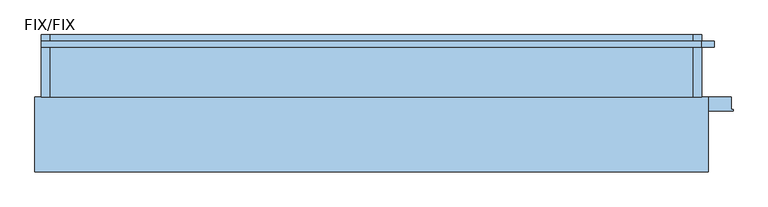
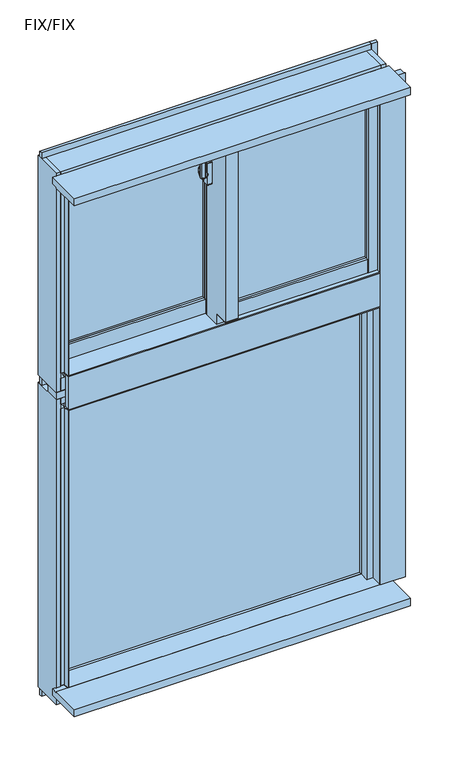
"""IFC4 building model written with IfcOpenShell, lengths in millimetres: window geometry, FNSⅡ100R_非防火_面付枠_段窓_分解無目 : FIX/FIX."""

from ifc_helpers import new_model, si_unit, point, frame, frame_2d, origin, place, context, project, spatial, polyline, circle_curve, trimmed, segment, composite_curve, outline, extrude, faceted_brep, source, transform, mapped, element, save
from ifc_brep_helpers import plane_surface, cylinder_surface, revolved_surface, advanced_brep


def fix_fix_c0cfdafb(model_context):
    return source(origin(), model_context, "Body", "SolidModel", [
        extrude(outline(composite_curve([segment(polyline([(-39.0, 34.6), (-39.0, 26.4)]), True, "CONTINUOUS"), segment(trimmed(circle_curve(frame_2d((-41.0, 26.4)), 2.0), [point((-39.0, 26.4))], [point((-41.3606557, 24.4327869))], False, "CARTESIAN"), True, "CONTINUOUS"), segment(polyline([(-41.3606557, 24.4327869), (-52.3606557, 26.4494536)]), True, "CONTINUOUS"), segment(trimmed(circle_curve(frame_2d((-52.0, 28.4166667)), 2.0), [point((-52.3606557, 26.4494536))], [point((-54.0, 28.4166667))], False, "CARTESIAN"), True, "CONTINUOUS"), segment(polyline([(-54.0, 28.4166667), (-54.0, 32.5833333)]), True, "CONTINUOUS"), segment(trimmed(circle_curve(frame_2d((-52.0, 32.5833333)), 2.0), [point((-54.0, 32.5833333))], [point((-52.3606557, 34.5505464))], False, "CARTESIAN"), True, "CONTINUOUS"), segment(polyline([(-52.3606557, 34.5505464), (-41.3606557, 36.5672131)]), True, "CONTINUOUS"), segment(trimmed(circle_curve(frame_2d((-41.0, 34.6)), 2.0), [point((-41.3606557, 36.5672131))], [point((-39.0, 34.6))], False, "CARTESIAN"), True, "CONTINUOUS")], self_intersect=False)), frame((0.0, 0.0, 2450.0), z_axis=(0.0, 0.0, 1.0), x_axis=(1.0, 0.0, 0.0)), (0.0, 0.0, 1.0), 100.0),
        advanced_brep(
        [(-37.5, 38.8234285, 2481.7333311), (-45.5, 38.8234285, 2481.7333311), (-45.5, 38.4351999, 2480.2844424), (-39.0, 38.4351999, 2480.2844424), (-39.0, 36.6234666, 2473.5229616), (-37.5, 36.6234666, 2473.5229616), (-39.0, 36.6466117, 2439.3190372), (-45.5, 36.6466117, 2439.3190372), (-45.5, 36.907084, 2437.8418256), (-37.5, 36.907084, 2437.8418256), (-37.5, 35.4310745, 2446.2126915), (-39.0, 35.4310745, 2446.2126915)],
        [
            (0, 1),
            (1, 2),
            (2, 3),
            (3, 4),
            (4, 5),
            (5, 0),
            (6, 7),
            (7, 8),
            (8, 9),
            (9, 10),
            (10, 11),
            (11, 6),
            (0, 9, circle_curve(frame((-37.5, 33.0, 2460.0), z_axis=(-1.0, 0.0, 0.0), x_axis=(0.0, 0.25881904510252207, 0.965925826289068)), 22.5)),
            (8, 1, circle_curve(frame((-45.5, 33.0, 2460.0), z_axis=(1.0, 0.0, 0.0), x_axis=(0.0, 0.25881904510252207, 0.965925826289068)), 22.5)),
            (7, 2, circle_curve(frame((-45.5, 33.0, 2460.0), z_axis=(1.0, 0.0, 0.0), x_axis=(0.0, 0.25881904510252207, 0.965925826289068)), 21.0)),
            (6, 3, circle_curve(frame((-39.0, 33.0, 2460.0), z_axis=(1.0, 0.0, 0.0), x_axis=(0.0, 0.25881904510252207, 0.965925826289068)), 21.0)),
            (11, 4, circle_curve(frame((-39.0, 33.0, 2460.0), z_axis=(-1.0, 0.0, 0.0), x_axis=(0.0, -1.0, 0.0)), 14.0)),
            (5, 10, circle_curve(frame((-37.5, 33.0, 2460.0), z_axis=(1.0, 0.0, 0.0), x_axis=(0.0, -1.0, 0.0)), 14.0)),
        ],
        [
            plane_surface(frame((-43.5470497, 33.0, 2460.0), z_axis=(0.0, -0.965925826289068, 0.25881904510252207), x_axis=(0.0, 0.25881904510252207, 0.965925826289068))),
            plane_surface(frame((-43.5470497, 33.0, 2460.0), z_axis=(0.0, -0.9848077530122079, -0.17364817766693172), x_axis=(0.0, 0.17364817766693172, -0.9848077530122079))),
            cylinder_surface(frame((-43.5470497, 33.0, 2460.0), z_axis=(-1.0, 0.0, 0.0), x_axis=(0.0, 0.25881904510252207, 0.965925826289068)), 22.5),
            plane_surface(frame((-45.5, 33.0, 2460.0), z_axis=(-1.0, 0.0, 0.0), x_axis=(0.0, 0.25881904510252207, 0.965925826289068))),
            revolved_surface(polyline([(-45.5, 38.43519994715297, 2480.2844423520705), (-39.0, 38.43519994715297, 2480.2844423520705)]), (-43.5470497, 33.0, 2460.0), (-1.0, 0.0, 0.0)),
            plane_surface(frame((-39.0, 33.0, 2460.0), z_axis=(-1.0, 0.0, 0.0), x_axis=(0.0, 0.25881904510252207, 0.965925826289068))),
            plane_surface(frame((-37.5, 33.0, 2460.0), z_axis=(1.0, 0.0, 0.0), x_axis=(0.0, 0.25881904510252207, 0.965925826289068))),
            cylinder_surface(frame((-37.5, 33.0, 2460.0), z_axis=(-1.0, 0.0, 0.0), x_axis=(0.0, -1.0, 0.0)), 14.0),
        ],
        [
            (0, [[1, 2, 3, 4, 5, 6]]),
            (1, [[7, 8, 9, 10, 11, 12]]),
            (2, [[-1, 13, -9, 14]]),
            (3, [[-2, -14, -8, 15]]),
            (4, [[-3, -15, -7, 16]]),
            (5, [[-16, -12, 17, -4]]),
            (6, [[-13, -6, 18, -10]]),
            (7, [[-17, -11, -18, -5]]),
        ],
    ),
        extrude(outline(composite_curve([segment(trimmed(circle_curve(frame_2d((33.0, 2460.0)), 11.5), [point((44.5, 2460.0))], [point((21.5, 2460.0))], False, "CARTESIAN"), True, "CONTINUOUS"), segment(trimmed(circle_curve(frame_2d((33.0, 2460.0)), 11.5), [point((21.5, 2460.0))], [point((44.5, 2460.0))], False, "CARTESIAN"), True, "CONTINUOUS")], self_intersect=False)), frame((-37.5, 0.0, 0.0), z_axis=(1.0, 0.0, 0.0), x_axis=(0.0, 1.0, 0.0)), (0.0, 0.0, 1.0), 2.5),
        extrude(outline(composite_curve([segment(polyline([(24.0, 2497.5), (42.0, 2497.5)]), True, "CONTINUOUS"), segment(trimmed(circle_curve(frame_2d((42.0, 2495.5)), 2.0), [point((42.0, 2497.5))], [point((44.0, 2495.5))], False, "CARTESIAN"), True, "CONTINUOUS"), segment(polyline([(44.0, 2495.5), (44.0, 2424.5)]), True, "CONTINUOUS"), segment(trimmed(circle_curve(frame_2d((42.0, 2424.5)), 2.0), [point((44.0, 2424.5))], [point((42.0, 2422.5))], False, "CARTESIAN"), True, "CONTINUOUS"), segment(polyline([(42.0, 2422.5), (24.0, 2422.5)]), True, "CONTINUOUS"), segment(trimmed(circle_curve(frame_2d((24.0, 2424.5)), 2.0), [point((24.0, 2422.5))], [point((22.0, 2424.5))], False, "CARTESIAN"), True, "CONTINUOUS"), segment(polyline([(22.0, 2424.5), (22.0, 2495.5)]), True, "CONTINUOUS"), segment(trimmed(circle_curve(frame_2d((24.0, 2495.5)), 2.0), [point((22.0, 2495.5))], [point((24.0, 2497.5))], False, "CARTESIAN"), True, "CONTINUOUS")], self_intersect=False)), frame((-35.0, 0.0, 0.0), z_axis=(1.0, 0.0, 0.0), x_axis=(0.0, 1.0, 0.0)), (0.0, 0.0, 1.0), 15.0),
        extrude(outline(polyline([(20.0, 24.0), (468.0, 24.0), (468.0, 18.0), (20.0, 18.0), (20.0, 24.0)])), frame((0.0, 0.0, 2008.0), z_axis=(0.0, 0.0, 1.0), x_axis=(1.0, 0.0, 0.0)), (0.0, 0.0, 1.0), 562.0),
        extrude(outline(polyline([(20.0, 42.0), (468.0, 42.0), (468.0, 36.0), (20.0, 36.0), (20.0, 42.0)])), frame((0.0, 0.0, 2008.0), z_axis=(0.0, 0.0, 1.0), x_axis=(1.0, 0.0, 0.0)), (0.0, 0.0, 1.0), 562.0),
        extrude(outline(polyline([(-468.0, 82.0), (-20.0, 82.0), (-20.0, 76.0), (-468.0, 76.0), (-468.0, 82.0)])), frame((0.0, 0.0, 2008.0), z_axis=(0.0, 0.0, 1.0), x_axis=(1.0, 0.0, 0.0)), (0.0, 0.0, 1.0), 562.0),
        extrude(outline(polyline([(-468.0, 100.0), (-20.0, 100.0), (-20.0, 94.0), (-468.0, 94.0), (-468.0, 100.0)])), frame((0.0, 0.0, 2008.0), z_axis=(0.0, 0.0, 1.0), x_axis=(1.0, 0.0, 0.0)), (0.0, 0.0, 1.0), 562.0),
        faceted_brep([(-500.0, 108.0, 2610.0), (-468.0, 108.0, 2610.0), (-468.0, 108.0, 1920.0), (-500.0, 108.0, 1920.0), (-500.0, 79.0, 1920.0), (-500.0, 79.0, 2610.0), (-489.5, 79.0, 1960.0), (-468.0, 79.0, 1960.0), (-468.0, 66.0, 1960.0), (-489.5, 66.0, 1960.0), (-489.5, 79.0, 2610.0), (-489.5, 66.0, 2610.0), (-468.0, 66.0, 2610.0), (-468.0, 79.0, 1920.0)], [[[0, 1, 2, 3]], [[4, 5, 0, 3]], [[6, 7, 8, 9]], [[5, 10, 11, 12, 1, 0]], [[13, 4, 3, 2]], [[10, 5, 4, 13, 7, 6]], [[11, 10, 6, 9]], [[12, 11, 9, 8]], [[1, 12, 8, 7, 13, 2]]]),
        faceted_brep([(-20.0, 108.0, 1920.0), (20.0, 108.0, 1920.0), (20.0, 79.0, 1920.0), (-20.0, 79.0, 1920.0), (-1.8, 65.5, 2610.0), (-20.0, 65.5, 2610.0), (-20.0, 65.5, 1960.0), (-1.8, 65.5, 1960.0), (-1.8, 53.1, 2610.0), (-1.8, 53.1, 1960.0), (20.0, 53.1, 2610.0), (20.0, 53.1, 1960.0), (-20.0, 108.0, 2610.0), (20.0, 108.0, 2610.0), (-20.0, 79.0, 1960.0), (20.0, 79.0, 1960.0)], [[[0, 1, 2, 3]], [[4, 5, 6, 7]], [[8, 4, 7, 9]], [[10, 8, 9, 11]], [[12, 13, 1, 0]], [[14, 15, 11, 9, 7, 6]], [[5, 4, 8, 10, 13, 12]], [[13, 10, 11, 15, 2, 1]], [[5, 12, 0, 3, 14, 6]], [[15, 14, 3, 2]]]),
        faceted_brep([(-20.0, 53.1, 1960.0), (-15.0, 53.1, 1960.0), (-15.0, 0.0, 1960.0), (-20.0, 0.0, 1960.0), (15.0, 12.0, 1960.0), (20.0, 12.0, 1960.0), (20.0, 0.0, 1960.0), (15.0, 0.0, 1960.0), (-15.0, 53.1, 2610.0), (-15.0, 0.0, 2610.0), (-15.0, 0.0, 2581.0), (-15.0, -42.0, 2581.0), (-15.0, -42.0, 1996.5), (-15.0, 0.0, 1996.5), (-20.0, 53.1, 2610.0), (-20.0, 0.0, 2610.0), (20.0, 12.0, 2610.0), (15.0, 12.0, 2610.0), (15.0, 0.0, 2610.0), (20.0, 0.0, 2610.0), (-20.0, 0.0, 1996.5), (-20.0, -50.0, 1996.5), (-20.0, -50.0, 2581.0), (-20.0, 0.0, 2581.0), (20.0, -50.0, 1996.5), (20.0, -50.0, 2581.0), (20.0, 0.0, 2581.0), (20.0, 0.0, 1996.5), (15.0, -42.0, 2581.0), (15.0, -42.0, 1996.5), (15.0, 0.0, 1996.5), (15.0, 0.0, 2581.0)], [[[0, 1, 2, 3]], [[4, 5, 6, 7]], [[1, 8, 9, 10, 11, 12, 13, 2]], [[14, 8, 1, 0]], [[8, 14, 15, 9]], [[16, 17, 18, 19]], [[14, 0, 3, 20, 21, 22, 23, 15]], [[22, 21, 24, 25]], [[5, 16, 19, 26, 25, 24, 27, 6]], [[28, 29, 12, 11]], [[17, 16, 5, 4]], [[17, 4, 7, 30, 29, 28, 31, 18]], [[13, 20, 3, 2]], [[27, 30, 7, 6]], [[20, 13, 12, 29, 30, 27, 24, 21]], [[10, 23, 22, 25, 26, 31, 28, 11]], [[23, 10, 9, 15]], [[31, 26, 19, 18]]]),
        faceted_brep([(-15.0, 53.1, 1960.0), (20.0, 53.1, 1960.0), (20.0, 12.0, 1960.0), (15.0, 12.0, 1960.0), (15.0, 0.0, 1960.0), (-15.0, 0.0, 1960.0), (-15.0, 53.1, 2610.0), (-15.0, 0.0, 1996.5), (-15.0, -42.0, 1996.5), (-15.0, -42.0, 2581.0), (-15.0, 0.0, 2581.0), (-15.0, 0.0, 2610.0), (20.0, 53.1, 2610.0), (15.0, 0.0, 2581.0), (15.0, -42.0, 2581.0), (15.0, 12.0, 2610.0), (20.0, 12.0, 2610.0), (15.0, 0.0, 2610.0), (15.0, -42.0, 1996.5), (15.0, 0.0, 1996.5)], [[[0, 1, 2, 3, 4, 5]], [[6, 0, 5, 7, 8, 9, 10, 11]], [[6, 12, 1, 0]], [[13, 10, 9, 14]], [[15, 16, 12, 6, 11, 17]], [[9, 8, 18, 14]], [[12, 16, 2, 1]], [[19, 7, 5, 4]], [[7, 19, 18, 8]], [[10, 13, 17, 11]], [[3, 15, 17, 13, 14, 18, 19, 4]], [[16, 15, 3, 2]]]),
        extrude(outline(polyline([(468.0, 0.0), (468.0, 8.0), (489.5, 8.0), (489.5, 21.0), (497.0, 21.0), (497.0, 0.0), (468.0, 0.0)])), frame((0.0, 0.0, 1963.0), z_axis=(0.0, 0.0, 1.0), x_axis=(1.0, 0.0, 0.0)), (0.0, 0.0, 1.0), 647.0),
        extrude(outline(polyline([(468.0, 50.0), (500.0, 50.0), (500.0, 21.0), (489.5, 21.0), (489.5, 8.0), (468.0, 8.0), (468.0, 50.0)])), frame((0.0, 0.0, 1960.0), z_axis=(0.0, 0.0, 1.0), x_axis=(1.0, 0.0, 0.0)), (0.0, 0.0, 1.0), 650.0),
        extrude(outline(polyline([(-1.85, 65.5), (-1.85, 58.0), (-20.0, 58.0), (-20.0, 65.5), (-1.85, 65.5)])), frame((0.0, 0.0, 1960.0), z_axis=(0.0, 0.0, 1.0), x_axis=(1.0, 0.0, 0.0)), (0.0, 0.0, 1.0), 650.0),
        extrude(outline(polyline([(-497.0, 79.0), (-489.5, 79.0), (-489.5, 66.0), (-468.0, 66.0), (-468.0, 58.0), (-497.0, 58.0), (-497.0, 79.0)])), frame((0.0, 0.0, 1960.0), z_axis=(0.0, 0.0, 1.0), x_axis=(1.0, 0.0, 0.0)), (0.0, 0.0, 1.0), 650.0),
        extrude(outline(polyline([(2.0, 1963.0), (2.0, 2008.0), (10.0, 2008.0), (10.0, 1985.5), (21.0, 1985.5), (21.0, 1963.0), (2.0, 1963.0)])), frame((20.0, 0.0, 0.0), z_axis=(1.0, 0.0, 0.0), x_axis=(0.0, 1.0, 0.0)), (0.0, 0.0, 1.0), 448.0),
        extrude(outline(polyline([(50.0, 1960.0), (21.0, 1960.0), (21.0, 1985.5), (10.0, 1985.5), (10.0, 2008.0), (50.0, 2008.0), (50.0, 1960.0)])), frame((20.0, 0.0, 0.0), z_axis=(1.0, 0.0, 0.0), x_axis=(0.0, 1.0, 0.0)), (0.0, 0.0, 1.0), 448.0),
        extrude(outline(polyline([(60.0, 2008.0), (68.0, 2008.0), (68.0, 1985.5), (79.0, 1985.5), (79.0, 1960.0), (60.0, 1960.0), (60.0, 2008.0)])), frame((-468.0, 0.0, 0.0), z_axis=(1.0, 0.0, 0.0), x_axis=(0.0, 1.0, 0.0)), (0.0, 0.0, 1.0), 448.0),
        extrude(outline(polyline([(108.0, 1920.0), (79.0, 1920.0), (79.0, 1985.5), (68.0, 1985.5), (68.0, 2008.0), (108.0, 2008.0), (108.0, 1920.0)])), frame((-468.0, 0.0, 0.0), z_axis=(1.0, 0.0, 0.0), x_axis=(0.0, 1.0, 0.0)), (0.0, 0.0, 1.0), 448.0),
        extrude(outline(polyline([(23.0, 2590.5), (10.0, 2590.5), (10.0, 2570.0), (2.0, 2570.0), (2.0, 2610.0), (23.0, 2610.0), (23.0, 2590.5)])), frame((20.0, 0.0, 0.0), z_axis=(1.0, 0.0, 0.0), x_axis=(0.0, 1.0, 0.0)), (0.0, 0.0, 1.0), 448.0),
        extrude(outline(polyline([(50.0, 2610.0), (50.0, 2570.0), (10.0, 2570.0), (10.0, 2590.5), (23.0, 2590.5), (23.0, 2610.0), (50.0, 2610.0)])), frame((20.0, 0.0, 0.0), z_axis=(1.0, 0.0, 0.0), x_axis=(0.0, 1.0, 0.0)), (0.0, 0.0, 1.0), 448.0),
        extrude(outline(polyline([(81.0, 2590.5), (68.0, 2590.5), (68.0, 2570.0), (60.0, 2570.0), (60.0, 2610.0), (81.0, 2610.0), (81.0, 2590.5)])), frame((-468.0, 0.0, 0.0), z_axis=(1.0, 0.0, 0.0), x_axis=(0.0, 1.0, 0.0)), (0.0, 0.0, 1.0), 448.0),
        extrude(outline(polyline([(108.0, 2610.0), (108.0, 2570.0), (68.0, 2570.0), (68.0, 2590.5), (81.0, 2590.5), (81.0, 2610.0), (108.0, 2610.0)])), frame((-468.0, 0.0, 0.0), z_axis=(1.0, 0.0, 0.0), x_axis=(0.0, 1.0, 0.0)), (0.0, 0.0, 1.0), 448.0),
        extrude(outline(polyline([(0.0, 2581.0), (-50.0, 2581.0), (-50.0, 2582.0), (-1.0, 2582.0), (-1.0, 2610.0), (0.0, 2610.0), (0.0, 2581.0)])), frame((-20.0, 0.0, 0.0), z_axis=(1.0, 0.0, 0.0), x_axis=(0.0, 1.0, 0.0)), (0.0, 0.0, 1.0), 40.0),
        extrude(outline(polyline([(0.0, 1996.5), (0.0, 1960.0), (-1.0, 1960.0), (-1.0, 1995.5), (-50.0, 1995.5), (-50.0, 1996.5), (0.0, 1996.5)])), frame((-20.0, 0.0, 0.0), z_axis=(1.0, 0.0, 0.0), x_axis=(0.0, 1.0, 0.0)), (0.0, 0.0, 1.0), 40.0),
        extrude(outline(polyline([(-15.0, 80.3), (-15.0, 31.9), (-500.0, 31.9), (-500.0, 80.3), (-15.0, 80.3)])), frame((0.0, 0.0, 2610.0), z_axis=(0.0, 0.0, 1.0), x_axis=(1.0, 0.0, 0.0)), (0.0, 0.0, 1.0), 25.0),
        faceted_brep([(515.0, 80.3, 2635.0), (515.0, 10.0, 2635.0), (-515.0, 10.0, 2635.0), (-515.0, 80.3, 2635.0), (-15.0, 80.3, 2635.0), (-15.0, 31.9, 2635.0), (500.0, 31.9, 2635.0), (500.0, 80.3, 2635.0), (-515.0, 80.3, 2610.0), (-15.0, 80.3, 2610.0), (515.0, 80.3, 2610.0), (500.0, 80.3, 2610.0), (515.0, 110.0, 2645.0), (515.0, 110.0, 2610.0), (-515.0, 110.0, 2610.0), (-515.0, 110.0, 2645.0), (500.0, 31.9, 2610.0), (-15.0, 31.9, 2610.0), (515.0, 10.0, 2645.0), (-515.0, 10.0, 2645.0)], [[[0, 1, 2, 3, 4, 5, 6, 7]], [[3, 8, 9, 4]], [[10, 0, 7, 11]], [[12, 13, 14, 15]], [[13, 10, 11, 16, 17, 9, 8, 14]], [[18, 12, 15, 19]], [[1, 18, 19, 2]], [[13, 12, 18, 1, 0, 10]], [[14, 8, 3, 2, 19, 15]], [[6, 16, 11, 7]], [[9, 17, 5, 4]], [[16, 6, 5, 17]]]),
        extrude(outline(polyline([(31.9, 2610.0), (-10.0, 2610.0), (-10.0, 2613.0), (10.0, 2613.0), (10.0, 2635.0), (31.9, 2635.0), (31.9, 2610.0)])), frame((-500.0, 0.0, 0.0), z_axis=(1.0, 0.0, 0.0), x_axis=(0.0, 1.0, 0.0)), (0.0, 0.0, 1.0), 1000.0),
        faceted_brep([(500.0, 10.0, 2630.0), (500.0, 10.0, 2613.0), (503.0, 10.0, 2613.0), (503.0, 10.0, 1960.0), (515.0, 10.0, 1960.0), (515.0, 10.0, 2630.0), (500.0, 14.5, 1960.0), (500.0, -10.0, 1960.0), (500.0, -10.0, 2613.0), (500.0, 14.5, 2630.0), (515.0, 14.5, 1960.0), (503.0, -10.0, 1960.0), (515.0, 14.5, 2630.0), (503.0, -10.0, 2613.0)], [[[0, 1, 2, 3, 4, 5]], [[6, 7, 8, 1, 0, 9]], [[7, 6, 10, 4, 3, 11]], [[0, 5, 12, 9]], [[7, 11, 13, 8]], [[11, 3, 2, 13]], [[12, 5, 4, 10]], [[9, 12, 10, 6]], [[2, 1, 8, 13]]]),
        faceted_brep([(-500.0, -10.0, 1960.0), (-500.0, 76.0, 1960.0), (-500.0, 76.0, 2630.0), (-500.0, 10.0, 2630.0), (-500.0, 10.0, 2613.0), (-500.0, -10.0, 2613.0), (-515.0, 76.0, 2630.0), (-515.0, 76.0, 1960.0), (-515.0, 10.0, 1960.0), (-503.0, -10.0, 1960.0), (-503.0, 10.0, 1960.0), (-515.0, 10.0, 2630.0), (-503.0, 10.0, 2613.0), (-503.0, -10.0, 2613.0)], [[[0, 1, 2, 3, 4, 5]], [[6, 2, 1, 7]], [[8, 7, 1, 0, 9, 10]], [[11, 3, 2, 6]], [[8, 10, 12, 4, 3, 11]], [[10, 9, 13, 12]], [[9, 0, 5, 13]], [[8, 11, 6, 7]], [[4, 12, 13, 5]]]),
        faceted_brep([(-530.0, 110.0, 1900.0), (-515.0, 110.0, 1900.0), (-515.0, 10.0, 1900.0), (-530.0, 10.0, 1900.0), (-530.0, 10.0, 2645.0), (-530.0, 110.0, 2645.0), (-515.0, 110.0, 2645.0), (-515.0, 10.0, 2645.0), (-515.0, 110.0, 1909.0), (-515.0, 76.0, 1909.0), (-515.0, 76.0, 2610.0), (-515.0, 110.0, 2610.0), (-500.0, 110.0, 2610.0), (-500.0, 110.0, 1909.0), (-500.0, 76.0, 2610.0), (-500.0, 76.0, 1909.0)], [[[0, 1, 2, 3]], [[4, 5, 0, 3]], [[6, 7, 2, 1, 8, 9, 10, 11]], [[5, 4, 7, 6]], [[7, 4, 3, 2]], [[5, 6, 11, 12, 13, 8, 1, 0]], [[12, 11, 10, 14]], [[13, 15, 9, 8]], [[14, 10, 9, 15]], [[12, 14, 15, 13]]]),
        faceted_brep([(515.0, 10.0, 1900.0), (515.0, 110.0, 1900.0), (530.0, 110.0, 1900.0), (530.0, 10.0, 1900.0), (530.0, 10.0, 2645.0), (515.0, 10.0, 2645.0), (500.0, 14.5, 2610.0), (500.0, 110.0, 2610.0), (500.0, 110.0, 1909.0), (500.0, 14.5, 1909.0), (515.0, 14.5, 2610.0), (515.0, 14.5, 1909.0), (530.0, 110.0, 2645.0), (515.0, 110.0, 2645.0), (515.0, 110.0, 2610.0), (515.0, 110.0, 1909.0)], [[[0, 1, 2, 3]], [[4, 5, 0, 3]], [[6, 7, 8, 9]], [[10, 6, 9, 11]], [[5, 4, 12, 13]], [[6, 10, 14, 7]], [[9, 8, 15, 11]], [[12, 4, 3, 2]], [[13, 12, 2, 1, 15, 8, 7, 14]], [[5, 13, 14, 10, 11, 15, 1, 0]]]),
        faceted_brep([(515.0, 110.0, 1900.0), (515.0, 110.0, 1909.0), (515.0, 76.0, 1909.0), (515.0, 76.0, 1944.0), (515.0, 10.0, 1944.0), (515.0, 10.0, 1900.0), (-515.0, 110.0, 1900.0), (-515.0, 10.0, 1900.0), (-515.0, 10.0, 1944.0), (-515.0, 76.0, 1944.0), (-515.0, 76.0, 1909.0), (-515.0, 110.0, 1909.0), (500.0, 37.25, 1944.0), (500.0, 18.8, 1944.0), (-15.0, 18.8, 1944.0), (-15.0, 37.25, 1944.0), (500.0, 18.8, 1960.0), (500.0, 37.25, 1960.0), (-15.0, 18.8, 1960.0), (-15.0, 37.25, 1960.0)], [[[0, 1, 2, 3, 4, 5]], [[6, 7, 8, 9, 10, 11]], [[3, 2, 10, 9]], [[0, 5, 7, 6]], [[4, 3, 9, 8], [12, 13, 14, 15]], [[2, 1, 11, 10]], [[5, 4, 8, 7]], [[1, 0, 6, 11]], [[16, 13, 12, 17]], [[18, 19, 15, 14]], [[13, 16, 18, 14]], [[17, 12, 15, 19]], [[16, 17, 19, 18]]]),
        faceted_brep([(-503.0, 10.0, 1944.0), (-503.0, 10.0, 1957.0), (-503.0, -10.0, 1957.0), (-503.0, -10.0, 1960.0), (-503.0, 18.8, 1960.0), (-503.0, 18.8, 1944.0), (503.0, 10.0, 1944.0), (503.0, 10.0, 1957.0), (500.0, 14.5, 1960.0), (500.0, 14.5, 1944.0), (500.0, 18.8, 1944.0), (500.0, 18.8, 1960.0), (503.0, -10.0, 1960.0), (503.0, -10.0, 1957.0), (503.0, 14.5, 1944.0), (503.0, 14.5, 1960.0), (-15.0, 18.8, 1960.0), (-15.0, 76.0, 1960.0), (-500.0, 76.0, 1960.0), (-500.0, 18.8, 1960.0), (-500.0, 18.8, 1944.0), (-15.0, 18.8, 1944.0), (-500.0, 76.0, 1944.0), (-15.0, 76.0, 1944.0)], [[[0, 1, 2, 3, 4, 5]], [[6, 7, 1, 0]], [[8, 9, 10, 11]], [[12, 13, 7, 6, 14, 15]], [[7, 13, 2, 1]], [[13, 12, 3, 2]], [[4, 3, 12, 15, 8, 11, 16, 17, 18, 19]], [[5, 4, 19, 20]], [[11, 10, 21, 16]], [[0, 5, 20, 22, 23, 21, 10, 9, 14, 6]], [[9, 8, 15, 14]], [[17, 16, 21, 23]], [[18, 22, 20, 19]], [[17, 23, 22, 18]]]),
        extrude(outline(polyline([(-480.0, 75.6), (480.0, 75.6), (480.0, 69.6), (-480.0, 69.6), (-480.0, 75.6)])), frame((0.0, 0.0, 900.0), z_axis=(0.0, 0.0, 1.0), x_axis=(1.0, 0.0, 0.0)), (0.0, 0.0, 1.0), 920.0),
        extrude(outline(polyline([(-480.0, 93.6), (480.0, 93.6), (480.0, 87.6), (-480.0, 87.6), (-480.0, 93.6)])), frame((0.0, 0.0, 900.0), z_axis=(0.0, 0.0, 1.0), x_axis=(1.0, 0.0, 0.0)), (0.0, 0.0, 1.0), 920.0),
        faceted_brep([(-530.0, 110.0, 1875.0), (-530.0, 10.0, 1875.0), (-515.0, 10.0, 1875.0), (-515.0, 110.0, 1875.0), (-530.0, 110.0, 840.0), (-515.0, 110.0, 840.0), (-515.0, 10.0, 840.0), (-530.0, 10.0, 840.0), (-515.0, 110.0, 900.0), (-515.0, 60.0, 900.0), (-515.0, 60.0, 1820.0), (-515.0, 110.0, 1820.0), (-480.0, 110.0, 1820.0), (-480.0, 110.0, 900.0), (-480.0, 60.0, 1820.0), (-480.0, 60.0, 900.0)], [[[0, 1, 2, 3]], [[4, 5, 6, 7]], [[1, 0, 4, 7]], [[2, 1, 7, 6]], [[3, 2, 6, 5, 8, 9, 10, 11]], [[0, 3, 11, 12, 13, 8, 5, 4]], [[12, 11, 10, 14]], [[13, 15, 9, 8]], [[14, 10, 9, 15]], [[12, 14, 15, 13]]]),
        faceted_brep([(530.0, 110.0, 1875.0), (515.0, 110.0, 1875.0), (515.0, 10.0, 1875.0), (530.0, 10.0, 1875.0), (530.0, 110.0, 840.0), (530.0, 10.0, 840.0), (515.0, 10.0, 840.0), (515.0, 110.0, 840.0), (515.0, 110.0, 900.0), (480.0, 110.0, 900.0), (480.0, 110.0, 1820.0), (515.0, 110.0, 1820.0), (515.0, 60.0, 1820.0), (515.0, 60.0, 900.0), (480.0, 60.0, 1820.0), (480.0, 60.0, 900.0)], [[[0, 1, 2, 3]], [[4, 5, 6, 7]], [[1, 0, 4, 7, 8, 9, 10, 11]], [[2, 1, 11, 12, 13, 8, 7, 6]], [[3, 2, 6, 5]], [[0, 3, 5, 4]], [[11, 10, 14, 12]], [[13, 15, 9, 8]], [[14, 10, 9, 15]], [[12, 14, 15, 13]]]),
        extrude(outline(polyline([(500.0, -10.0), (500.0, 28.5), (480.0, 28.5), (480.0, 60.0), (515.0, 60.0), (515.0, 10.0), (503.0, 10.0), (503.0, -10.0), (500.0, -10.0)])), frame((0.0, 0.0, 900.0), z_axis=(0.0, 0.0, 1.0), x_axis=(1.0, 0.0, 0.0)), (0.0, 0.0, 1.0), 940.0),
        extrude(outline(polyline([(-515.0, 10.0), (-515.0, 60.0), (-480.0, 60.0), (-480.0, 28.5), (-500.0, 28.5), (-500.0, -10.0), (-503.0, -10.0), (-503.0, 10.0), (-515.0, 10.0)])), frame((0.0, 0.0, 900.0), z_axis=(0.0, 0.0, 1.0), x_axis=(1.0, 0.0, 0.0)), (0.0, 0.0, 1.0), 940.0),
        extrude(outline(polyline([(10.0, 884.0), (10.0, 897.0), (-10.0, 897.0), (-10.0, 900.0), (60.0, 900.0), (60.0, 884.0), (10.0, 884.0)])), frame((-503.0, 0.0, 0.0), z_axis=(1.0, 0.0, 0.0), x_axis=(0.0, 1.0, 0.0)), (0.0, 0.0, 1.0), 1006.0),
        extrude(outline(polyline([(110.0, 840.0), (10.0, 840.0), (10.0, 884.0), (60.0, 884.0), (60.0, 900.0), (110.0, 900.0), (110.0, 870.0), (91.0, 870.0), (91.0, 850.0), (110.0, 850.0), (110.0, 840.0)])), frame((-515.0, 0.0, 0.0), z_axis=(1.0, 0.0, 0.0), x_axis=(0.0, 1.0, 0.0)), (0.0, 0.0, 1.0), 1030.0),
        extrude(outline(polyline([(60.0, 1817.0), (26.0, 1817.0), (26.0, 1840.0), (-10.0, 1840.0), (-10.0, 1843.0), (10.0, 1843.0), (10.0, 1855.0), (60.0, 1855.0), (60.0, 1817.0)])), frame((-503.0, 0.0, 0.0), z_axis=(1.0, 0.0, 0.0), x_axis=(0.0, 1.0, 0.0)), (0.0, 0.0, 1.0), 1006.0),
        extrude(outline(polyline([(110.0, 1820.0), (60.0, 1820.0), (60.0, 1855.0), (10.0, 1855.0), (10.0, 1875.0), (110.0, 1875.0), (110.0, 1820.0)])), frame((-515.0, 0.0, 0.0), z_axis=(1.0, 0.0, 0.0), x_axis=(0.0, 1.0, 0.0)), (0.0, 0.0, 1.0), 1030.0),
        extrude(outline(polyline([(-110.0, 900.0), (-10.0, 900.0), (-10.0, 897.0), (10.0, 897.0), (10.0, 875.0), (-110.0, 875.0), (-110.0, 900.0)])), frame((-540.0, 0.0, 0.0), z_axis=(1.0, 0.0, 0.0), x_axis=(0.0, 1.0, 0.0)), (0.0, 0.0, 1.0), 1080.0),
        extrude(outline(polyline([(-530.0, 90.0), (-530.0, 100.0), (530.0, 100.0), (530.0, 90.0), (-530.0, 90.0)])), frame((0.0, 0.0, 820.0), z_axis=(0.0, 0.0, 1.0), x_axis=(1.0, 0.0, 0.0)), (0.0, 0.0, 1.0), 20.0),
        extrude(outline(polyline([(550.0, 90.0), (530.0, 90.0), (530.0, 100.0), (550.0, 100.0), (550.0, 90.0)])), frame((0.0, 0.0, 820.0), z_axis=(0.0, 0.0, 1.0), x_axis=(1.0, 0.0, 0.0)), (0.0, 0.0, 1.0), 1845.0),
        extrude(outline(polyline([(503.0, -10.0), (503.0, 10.0), (577.0, 10.0), (577.0, -10.0), (580.0, -10.0), (580.0, -12.5), (500.0, -12.5), (500.0, -10.0), (503.0, -10.0)])), frame((0.0, 0.0, 900.0), z_axis=(0.0, 0.0, 1.0), x_axis=(1.0, 0.0, 0.0)), (0.0, 0.0, 1.0), 1710.0),
        extrude(outline(polyline([(10.0, 2613.0), (-10.0, 2613.0), (-10.0, 2610.0), (-110.0, 2610.0), (-110.0, 2635.0), (10.0, 2635.0), (10.0, 2613.0)])), frame((-540.0, 0.0, 0.0), z_axis=(1.0, 0.0, 0.0), x_axis=(0.0, 1.0, 0.0)), (0.0, 0.0, 1.0), 1080.0),
        extrude(outline(polyline([(-530.0, 90.0), (-530.0, 100.0), (530.0, 100.0), (530.0, 90.0), (-530.0, 90.0)])), frame((0.0, 0.0, 1875.0), z_axis=(0.0, 0.0, 1.0), x_axis=(1.0, 0.0, 0.0)), (0.0, 0.0, 1.0), 25.0),
        extrude(outline(polyline([(-500.0, -10.0), (-500.0, 10.0), (500.0, 10.0), (500.0, -10.0), (-500.0, -10.0)])), frame((0.0, 0.0, 1843.0), z_axis=(0.0, 0.0, 1.0), x_axis=(1.0, 0.0, 0.0)), (0.0, 0.0, 1.0), 114.0),
        extrude(outline(polyline([(-530.0, 10.0), (-530.0, 53.5), (530.0, 53.5), (530.0, 10.0), (-530.0, 10.0)])), frame((0.0, 0.0, 1875.0), z_axis=(0.0, 0.0, 1.0), x_axis=(1.0, 0.0, 0.0)), (0.0, 0.0, 1.0), 25.0),
        extrude(outline(polyline([(-530.0, 90.0), (-530.0, 100.0), (530.0, 100.0), (530.0, 90.0), (-530.0, 90.0)])), frame((0.0, 0.0, 2645.0), z_axis=(0.0, 0.0, 1.0), x_axis=(1.0, 0.0, 0.0)), (0.0, 0.0, 1.0), 20.0),
    ])


if __name__ == "__main__":
    model = new_model("IFC4")
    model_context = context("Model", 3, world=origin())
    ifc_project = project(units=[si_unit("LENGTHUNIT", "METRE", prefix="MILLI")], contexts=[model_context])
    site = spatial("IfcSite", under=ifc_project)
    building = spatial("IfcBuilding", under=site)
    placement = place(None, origin())
    fix_fix_shape = fix_fix_c0cfdafb(model_context)
    element("IfcWindow", 1, ObjectType="FNSⅡ100R_非防火_面付枠_段窓_分解無目 : FIX/FIX", at=placement, inside=building, context=model_context, shape_type="MappedRepresentation", body=[
        mapped(fix_fix_shape, transform((0.0, 0.0, 0.0), x_axis=(1.0, 0.0, 0.0), y_axis=(0.0, 1.0, 0.0), z_axis=(0.0, 0.0, 1.0))),
    ])
    save(model, "model.ifc")
